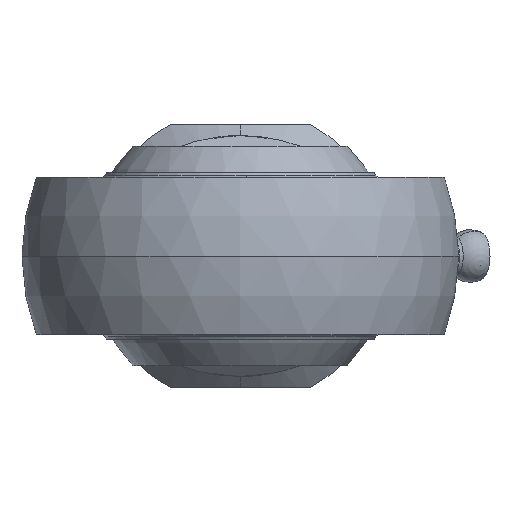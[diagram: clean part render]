
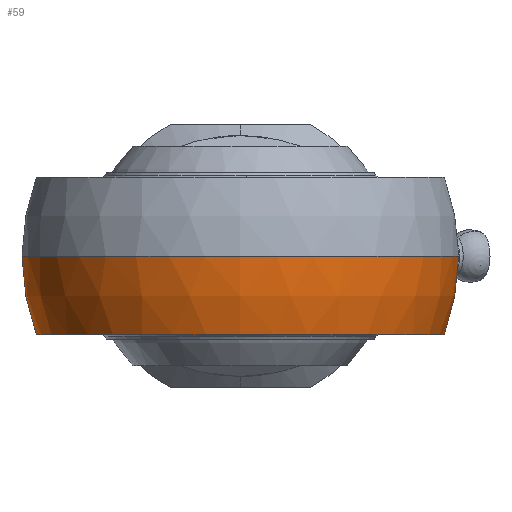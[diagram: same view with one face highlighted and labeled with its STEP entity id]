
A CAD part, left-side view. The second image highlights one B-rep face of the part: STEP entity #59.
In plain terms, the highlighted spherical face has radius 25 mm.
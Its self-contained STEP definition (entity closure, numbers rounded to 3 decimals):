
#54 = ORIENTED_EDGE ( 'NONE', *, *, #55, .T. ) ;
#55 = EDGE_CURVE ( 'NONE', #56, #57, #957, .T. ) ;
#56 = VERTEX_POINT ( 'NONE', #952 ) ;
#57 = VERTEX_POINT ( 'NONE', #951 ) ;
#59 = ADVANCED_FACE ( 'NONE', ( #950 ), #949, .T. ) ;
#60 = EDGE_LOOP ( 'NONE', ( #54, #96, #89, #91, #90 ) ) ;
#85 = VERTEX_POINT ( 'NONE', #1067 ) ;
#86 = EDGE_CURVE ( 'NONE', #88, #56, #1066, .T. ) ;
#87 = VERTEX_POINT ( 'NONE', #1061 ) ;
#88 = VERTEX_POINT ( 'NONE', #1060 ) ;
#89 = ORIENTED_EDGE ( 'NONE', *, *, #93, .F. ) ;
#90 = ORIENTED_EDGE ( 'NONE', *, *, #86, .T. ) ;
#91 = ORIENTED_EDGE ( 'NONE', *, *, #94, .T. ) ;
#93 = EDGE_CURVE ( 'NONE', #85, #87, #1052, .T. ) ;
#94 = EDGE_CURVE ( 'NONE', #85, #88, #1110, .T. ) ;
#95 = EDGE_CURVE ( 'NONE', #57, #87, #1105, .T. ) ;
#96 = ORIENTED_EDGE ( 'NONE', *, *, #95, .T. ) ;
#949 = SPHERICAL_SURFACE ( 'NONE', #996, 25. ) ;
#950 = FACE_OUTER_BOUND ( 'NONE', #60, .T. ) ;
#951 = CARTESIAN_POINT ( 'NONE',  ( 10.099, -22.869, 0. ) ) ;
#952 = CARTESIAN_POINT ( 'NONE',  ( 10.099, -21.024, -9. ) ) ;
#953 = DIRECTION ( 'NONE',  ( 0., 0., 1. ) ) ;
#954 = DIRECTION ( 'NONE',  ( -1., 0., 0. ) ) ;
#955 = CARTESIAN_POINT ( 'NONE',  ( 10.099, 0., 0. ) ) ;
#956 = AXIS2_PLACEMENT_3D ( 'NONE', #955, #954, #953 ) ;
#957 = CIRCLE ( 'NONE', #956, 22.869 ) ;
#993 = DIRECTION ( 'NONE',  ( 0., 1., 0. ) ) ;
#994 = DIRECTION ( 'NONE',  ( 0., 0., -1. ) ) ;
#995 = CARTESIAN_POINT ( 'NONE',  ( 0., 0., 0. ) ) ;
#996 = AXIS2_PLACEMENT_3D ( 'NONE', #995, #994, #993 ) ;
#1048 = DIRECTION ( 'NONE',  ( 1., 0., 0. ) ) ;
#1049 = DIRECTION ( 'NONE',  ( 0., 0., 1. ) ) ;
#1050 = CARTESIAN_POINT ( 'NONE',  ( 0., 0., 0. ) ) ;
#1051 = AXIS2_PLACEMENT_3D ( 'NONE', #1050, #1049, #1048 ) ;
#1052 = CIRCLE ( 'NONE', #1051, 25. ) ;
#1060 = CARTESIAN_POINT ( 'NONE',  ( 10.099, 21.024, -9. ) ) ;
#1061 = CARTESIAN_POINT ( 'NONE',  ( -25., 0., 0. ) ) ;
#1062 = DIRECTION ( 'NONE',  ( 1., 0., 0. ) ) ;
#1063 = DIRECTION ( 'NONE',  ( 0., 0., 1. ) ) ;
#1064 = CARTESIAN_POINT ( 'NONE',  ( 0., 0., -9. ) ) ;
#1065 = AXIS2_PLACEMENT_3D ( 'NONE', #1064, #1063, #1062 ) ;
#1066 = CIRCLE ( 'NONE', #1065, 23.324 ) ;
#1067 = CARTESIAN_POINT ( 'NONE',  ( 10.099, 22.869, 0. ) ) ;
#1101 = DIRECTION ( 'NONE',  ( 0., 1., 0. ) ) ;
#1102 = DIRECTION ( 'NONE',  ( 0., 0., -1. ) ) ;
#1103 = CARTESIAN_POINT ( 'NONE',  ( 0., 0., 0. ) ) ;
#1104 = AXIS2_PLACEMENT_3D ( 'NONE', #1103, #1102, #1101 ) ;
#1105 = CIRCLE ( 'NONE', #1104, 25. ) ;
#1106 = DIRECTION ( 'NONE',  ( 0., 0., 1. ) ) ;
#1107 = DIRECTION ( 'NONE',  ( -1., 0., 0. ) ) ;
#1108 = CARTESIAN_POINT ( 'NONE',  ( 10.099, 0., 0. ) ) ;
#1109 = AXIS2_PLACEMENT_3D ( 'NONE', #1108, #1107, #1106 ) ;
#1110 = CIRCLE ( 'NONE', #1109, 22.869 ) ;
